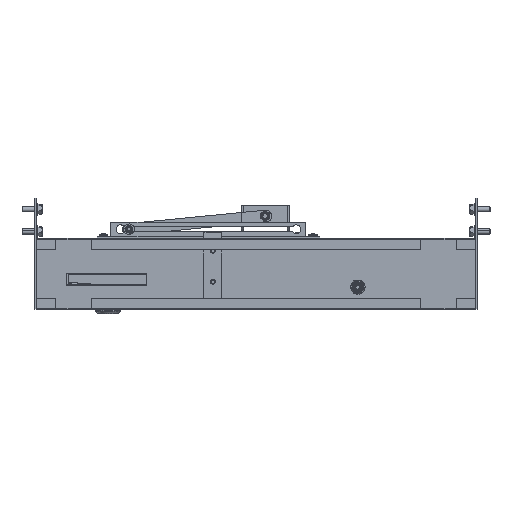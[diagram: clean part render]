
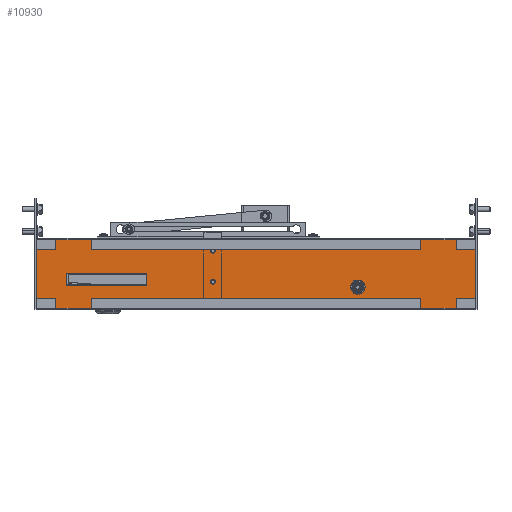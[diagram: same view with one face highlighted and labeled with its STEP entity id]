
A CAD part, front view. The second image highlights one B-rep face of the part: STEP entity #10930.
In plain terms, the highlighted planar face has unit normal (0, -1, 0).
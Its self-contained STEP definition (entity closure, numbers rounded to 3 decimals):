
#9102 = VERTEX_POINT('',#9103);
#9103 = CARTESIAN_POINT('',(-48.5,-1.5,-6.9));
#9121 = VERTEX_POINT('',#9122);
#9122 = CARTESIAN_POINT('',(-48.5,-1.5,-11.1));
#9128 = EDGE_CURVE('',#9102,#9121,#9129,.T.);
#9129 = CIRCLE('',#9130,2.1);
#9130 = AXIS2_PLACEMENT_3D('',#9131,#9132,#9133);
#9131 = CARTESIAN_POINT('',(-48.5,-1.5,-9.));
#9132 = DIRECTION('',(0.,-1.,0.));
#9133 = DIRECTION('',(0.,0.,-1.));
#9144 = VERTEX_POINT('',#9145);
#9145 = CARTESIAN_POINT('',(-48.5,-1.5,28.1));
#9163 = VERTEX_POINT('',#9164);
#9164 = CARTESIAN_POINT('',(-48.5,-1.5,23.9));
#9170 = EDGE_CURVE('',#9144,#9163,#9171,.T.);
#9171 = CIRCLE('',#9172,2.1);
#9172 = AXIS2_PLACEMENT_3D('',#9173,#9174,#9175);
#9173 = CARTESIAN_POINT('',(-48.5,-1.5,26.));
#9174 = DIRECTION('',(0.,-1.,0.));
#9175 = DIRECTION('',(0.,0.,-1.));
#9186 = VERTEX_POINT('',#9187);
#9187 = CARTESIAN_POINT('',(-124.,-1.5,-13.6));
#9195 = EDGE_CURVE('',#9186,#9196,#9198,.T.);
#9196 = VERTEX_POINT('',#9197);
#9197 = CARTESIAN_POINT('',(-123.5,-1.5,-13.6));
#9198 = LINE('',#9199,#9200);
#9199 = CARTESIAN_POINT('',(0.,-1.5,-13.6));
#9200 = VECTOR('',#9201,1.);
#9201 = DIRECTION('',(1.,0.,0.));
#10492 = VERTEX_POINT('',#10493);
#10493 = CARTESIAN_POINT('',(246.4,-1.5,-38.5));
#10499 = EDGE_CURVE('',#10500,#10492,#10502,.T.);
#10500 = VERTEX_POINT('',#10501);
#10501 = CARTESIAN_POINT('',(-246.4,-1.5,-38.5));
#10502 = LINE('',#10503,#10504);
#10503 = CARTESIAN_POINT('',(0.,-1.5,-38.5));
#10504 = VECTOR('',#10505,1.);
#10505 = DIRECTION('',(1.,0.,0.));
#10748 = VERTEX_POINT('',#10749);
#10749 = CARTESIAN_POINT('',(-246.4,-1.5,38.5));
#10755 = EDGE_CURVE('',#10756,#10748,#10758,.T.);
#10756 = VERTEX_POINT('',#10757);
#10757 = CARTESIAN_POINT('',(246.4,-1.5,38.5));
#10758 = LINE('',#10759,#10760);
#10759 = CARTESIAN_POINT('',(0.,-1.5,38.5));
#10760 = VECTOR('',#10761,1.);
#10761 = DIRECTION('',(-1.,0.,0.));
#10847 = EDGE_CURVE('',#10848,#10850,#10852,.T.);
#10848 = VERTEX_POINT('',#10849);
#10849 = CARTESIAN_POINT('',(-246.4,-1.5,-37.9));
#10850 = VERTEX_POINT('',#10851);
#10851 = CARTESIAN_POINT('',(-247.,-1.5,-37.9));
#10852 = LINE('',#10853,#10854);
#10853 = CARTESIAN_POINT('',(0.,-1.5,-37.9));
#10854 = VECTOR('',#10855,1.);
#10855 = DIRECTION('',(-1.,-0.,0.));
#10930 = ADVANCED_FACE('',(#10931,#10941,#10951,#11001,#11058),#11129,
  .T.);
#10931 = FACE_BOUND('',#10932,.T.);
#10932 = EDGE_LOOP('',(#10933,#10934));
#10933 = ORIENTED_EDGE('',*,*,#9128,.F.);
#10934 = ORIENTED_EDGE('',*,*,#10935,.F.);
#10935 = EDGE_CURVE('',#9121,#9102,#10936,.T.);
#10936 = CIRCLE('',#10937,2.1);
#10937 = AXIS2_PLACEMENT_3D('',#10938,#10939,#10940);
#10938 = CARTESIAN_POINT('',(-48.5,-1.5,-9.));
#10939 = DIRECTION('',(0.,-1.,0.));
#10940 = DIRECTION('',(0.,0.,-1.));
#10941 = FACE_BOUND('',#10942,.T.);
#10942 = EDGE_LOOP('',(#10943,#10944));
#10943 = ORIENTED_EDGE('',*,*,#9170,.F.);
#10944 = ORIENTED_EDGE('',*,*,#10945,.F.);
#10945 = EDGE_CURVE('',#9163,#9144,#10946,.T.);
#10946 = CIRCLE('',#10947,2.1);
#10947 = AXIS2_PLACEMENT_3D('',#10948,#10949,#10950);
#10948 = CARTESIAN_POINT('',(-48.5,-1.5,26.));
#10949 = DIRECTION('',(0.,-1.,0.));
#10950 = DIRECTION('',(0.,0.,-1.));
#10951 = FACE_BOUND('',#10952,.T.);
#10952 = EDGE_LOOP('',(#10953,#10963,#10971,#10979,#10987,#10995));
#10953 = ORIENTED_EDGE('',*,*,#10954,.F.);
#10954 = EDGE_CURVE('',#10955,#10957,#10959,.T.);
#10955 = VERTEX_POINT('',#10956);
#10956 = CARTESIAN_POINT('',(117.82,-1.5,-9.25));
#10957 = VERTEX_POINT('',#10958);
#10958 = CARTESIAN_POINT('',(111.18,-1.5,-9.25));
#10959 = LINE('',#10960,#10961);
#10960 = CARTESIAN_POINT('',(0.,-1.5,-9.25));
#10961 = VECTOR('',#10962,1.);
#10962 = DIRECTION('',(-1.,0.,0.));
#10963 = ORIENTED_EDGE('',*,*,#10964,.F.);
#10964 = EDGE_CURVE('',#10965,#10955,#10967,.T.);
#10965 = VERTEX_POINT('',#10966);
#10966 = CARTESIAN_POINT('',(121.14,-1.5,-15.));
#10967 = LINE('',#10968,#10969);
#10968 = CARTESIAN_POINT('',(84.359,-1.5,48.705));
#10969 = VECTOR('',#10970,1.);
#10970 = DIRECTION('',(-0.5,0.,0.866));
#10971 = ORIENTED_EDGE('',*,*,#10972,.F.);
#10972 = EDGE_CURVE('',#10973,#10965,#10975,.T.);
#10973 = VERTEX_POINT('',#10974);
#10974 = CARTESIAN_POINT('',(117.82,-1.5,-20.75));
#10975 = LINE('',#10976,#10977);
#10976 = CARTESIAN_POINT('',(97.35,-1.5,-56.205));
#10977 = VECTOR('',#10978,1.);
#10978 = DIRECTION('',(0.5,0.,0.866));
#10979 = ORIENTED_EDGE('',*,*,#10980,.F.);
#10980 = EDGE_CURVE('',#10981,#10973,#10983,.T.);
#10981 = VERTEX_POINT('',#10982);
#10982 = CARTESIAN_POINT('',(111.18,-1.5,-20.75));
#10983 = LINE('',#10984,#10985);
#10984 = CARTESIAN_POINT('',(0.,-1.5,-20.75));
#10985 = VECTOR('',#10986,1.);
#10986 = DIRECTION('',(1.,0.,0.));
#10987 = ORIENTED_EDGE('',*,*,#10988,.F.);
#10988 = EDGE_CURVE('',#10989,#10981,#10991,.T.);
#10989 = VERTEX_POINT('',#10990);
#10990 = CARTESIAN_POINT('',(107.86,-1.5,-15.));
#10991 = LINE('',#10992,#10993);
#10992 = CARTESIAN_POINT('',(74.4,-1.5,42.955));
#10993 = VECTOR('',#10994,1.);
#10994 = DIRECTION('',(0.5,0.,-0.866));
#10995 = ORIENTED_EDGE('',*,*,#10996,.F.);
#10996 = EDGE_CURVE('',#10957,#10989,#10997,.T.);
#10997 = LINE('',#10998,#10999);
#10998 = CARTESIAN_POINT('',(87.391,-1.5,-50.455));
#10999 = VECTOR('',#11000,1.);
#11000 = DIRECTION('',(-0.5,0.,-0.866));
#11001 = FACE_BOUND('',#11002,.T.);
#11002 = EDGE_LOOP('',(#11003,#11013,#11021,#11027,#11028,#11036,#11044,
    #11052));
#11003 = ORIENTED_EDGE('',*,*,#11004,.F.);
#11004 = EDGE_CURVE('',#11005,#11007,#11009,.T.);
#11005 = VERTEX_POINT('',#11006);
#11006 = CARTESIAN_POINT('',(-213.5,-1.5,0.4));
#11007 = VERTEX_POINT('',#11008);
#11008 = CARTESIAN_POINT('',(-213.5,-1.5,-13.6));
#11009 = LINE('',#11010,#11011);
#11010 = CARTESIAN_POINT('',(-213.5,-1.5,0.));
#11011 = VECTOR('',#11012,1.);
#11012 = DIRECTION('',(0.,0.,-1.));
#11013 = ORIENTED_EDGE('',*,*,#11014,.F.);
#11014 = EDGE_CURVE('',#11015,#11005,#11017,.T.);
#11015 = VERTEX_POINT('',#11016);
#11016 = CARTESIAN_POINT('',(-123.5,-1.5,0.4));
#11017 = LINE('',#11018,#11019);
#11018 = CARTESIAN_POINT('',(0.,-1.5,0.4));
#11019 = VECTOR('',#11020,1.);
#11020 = DIRECTION('',(-1.,0.,0.));
#11021 = ORIENTED_EDGE('',*,*,#11022,.F.);
#11022 = EDGE_CURVE('',#9196,#11015,#11023,.T.);
#11023 = LINE('',#11024,#11025);
#11024 = CARTESIAN_POINT('',(-123.5,-1.5,0.));
#11025 = VECTOR('',#11026,1.);
#11026 = DIRECTION('',(0.,0.,1.));
#11027 = ORIENTED_EDGE('',*,*,#9195,.F.);
#11028 = ORIENTED_EDGE('',*,*,#11029,.T.);
#11029 = EDGE_CURVE('',#9186,#11030,#11032,.T.);
#11030 = VERTEX_POINT('',#11031);
#11031 = CARTESIAN_POINT('',(-124.,-1.5,-13.));
#11032 = LINE('',#11033,#11034);
#11033 = CARTESIAN_POINT('',(-124.,-1.5,-13.6));
#11034 = VECTOR('',#11035,1.);
#11035 = DIRECTION('',(-0.,-0.,1.));
#11036 = ORIENTED_EDGE('',*,*,#11037,.T.);
#11037 = EDGE_CURVE('',#11030,#11038,#11040,.T.);
#11038 = VERTEX_POINT('',#11039);
#11039 = CARTESIAN_POINT('',(-213.,-1.5,-13.));
#11040 = LINE('',#11041,#11042);
#11041 = CARTESIAN_POINT('',(0.,-1.5,-13.));
#11042 = VECTOR('',#11043,1.);
#11043 = DIRECTION('',(-1.,-0.,0.));
#11044 = ORIENTED_EDGE('',*,*,#11045,.F.);
#11045 = EDGE_CURVE('',#11046,#11038,#11048,.T.);
#11046 = VERTEX_POINT('',#11047);
#11047 = CARTESIAN_POINT('',(-213.,-1.5,-13.6));
#11048 = LINE('',#11049,#11050);
#11049 = CARTESIAN_POINT('',(-213.,-1.5,0.));
#11050 = VECTOR('',#11051,1.);
#11051 = DIRECTION('',(-0.,0.,1.));
#11052 = ORIENTED_EDGE('',*,*,#11053,.F.);
#11053 = EDGE_CURVE('',#11007,#11046,#11054,.T.);
#11054 = LINE('',#11055,#11056);
#11055 = CARTESIAN_POINT('',(0.,-1.5,-13.6));
#11056 = VECTOR('',#11057,1.);
#11057 = DIRECTION('',(1.,0.,0.));
#11058 = FACE_BOUND('',#11059,.T.);
#11059 = EDGE_LOOP('',(#11060,#11070,#11076,#11077,#11085,#11093,#11099,
    #11100,#11106,#11107,#11115,#11123));
#11060 = ORIENTED_EDGE('',*,*,#11061,.F.);
#11061 = EDGE_CURVE('',#11062,#11064,#11066,.T.);
#11062 = VERTEX_POINT('',#11063);
#11063 = CARTESIAN_POINT('',(246.4,-1.5,37.9));
#11064 = VERTEX_POINT('',#11065);
#11065 = CARTESIAN_POINT('',(247.,-1.5,37.9));
#11066 = LINE('',#11067,#11068);
#11067 = CARTESIAN_POINT('',(0.,-1.5,37.9));
#11068 = VECTOR('',#11069,1.);
#11069 = DIRECTION('',(1.,-0.,0.));
#11070 = ORIENTED_EDGE('',*,*,#11071,.T.);
#11071 = EDGE_CURVE('',#11062,#10756,#11072,.T.);
#11072 = LINE('',#11073,#11074);
#11073 = CARTESIAN_POINT('',(246.4,-1.5,37.9));
#11074 = VECTOR('',#11075,1.);
#11075 = DIRECTION('',(-0.,-0.,1.));
#11076 = ORIENTED_EDGE('',*,*,#10755,.T.);
#11077 = ORIENTED_EDGE('',*,*,#11078,.F.);
#11078 = EDGE_CURVE('',#11079,#10748,#11081,.T.);
#11079 = VERTEX_POINT('',#11080);
#11080 = CARTESIAN_POINT('',(-246.4,-1.5,37.9));
#11081 = LINE('',#11082,#11083);
#11082 = CARTESIAN_POINT('',(-246.4,-1.5,0.));
#11083 = VECTOR('',#11084,1.);
#11084 = DIRECTION('',(-0.,0.,1.));
#11085 = ORIENTED_EDGE('',*,*,#11086,.T.);
#11086 = EDGE_CURVE('',#11079,#11087,#11089,.T.);
#11087 = VERTEX_POINT('',#11088);
#11088 = CARTESIAN_POINT('',(-247.,-1.5,37.9));
#11089 = LINE('',#11090,#11091);
#11090 = CARTESIAN_POINT('',(-246.4,-1.5,37.9));
#11091 = VECTOR('',#11092,1.);
#11092 = DIRECTION('',(-1.,-0.,0.));
#11093 = ORIENTED_EDGE('',*,*,#11094,.F.);
#11094 = EDGE_CURVE('',#10850,#11087,#11095,.T.);
#11095 = LINE('',#11096,#11097);
#11096 = CARTESIAN_POINT('',(-247.,-1.5,0.));
#11097 = VECTOR('',#11098,1.);
#11098 = DIRECTION('',(0.,0.,1.));
#11099 = ORIENTED_EDGE('',*,*,#10847,.F.);
#11100 = ORIENTED_EDGE('',*,*,#11101,.T.);
#11101 = EDGE_CURVE('',#10848,#10500,#11102,.T.);
#11102 = LINE('',#11103,#11104);
#11103 = CARTESIAN_POINT('',(-246.4,-1.5,-37.9));
#11104 = VECTOR('',#11105,1.);
#11105 = DIRECTION('',(-0.,-0.,-1.));
#11106 = ORIENTED_EDGE('',*,*,#10499,.T.);
#11107 = ORIENTED_EDGE('',*,*,#11108,.F.);
#11108 = EDGE_CURVE('',#11109,#10492,#11111,.T.);
#11109 = VERTEX_POINT('',#11110);
#11110 = CARTESIAN_POINT('',(246.4,-1.5,-37.9));
#11111 = LINE('',#11112,#11113);
#11112 = CARTESIAN_POINT('',(246.4,-1.5,0.));
#11113 = VECTOR('',#11114,1.);
#11114 = DIRECTION('',(0.,0.,-1.));
#11115 = ORIENTED_EDGE('',*,*,#11116,.T.);
#11116 = EDGE_CURVE('',#11109,#11117,#11119,.T.);
#11117 = VERTEX_POINT('',#11118);
#11118 = CARTESIAN_POINT('',(247.,-1.5,-37.9));
#11119 = LINE('',#11120,#11121);
#11120 = CARTESIAN_POINT('',(246.4,-1.5,-37.9));
#11121 = VECTOR('',#11122,1.);
#11122 = DIRECTION('',(1.,-0.,0.));
#11123 = ORIENTED_EDGE('',*,*,#11124,.T.);
#11124 = EDGE_CURVE('',#11117,#11064,#11125,.T.);
#11125 = LINE('',#11126,#11127);
#11126 = CARTESIAN_POINT('',(247.,-1.5,0.));
#11127 = VECTOR('',#11128,1.);
#11128 = DIRECTION('',(0.,-0.,1.));
#11129 = PLANE('',#11130);
#11130 = AXIS2_PLACEMENT_3D('',#11131,#11132,#11133);
#11131 = CARTESIAN_POINT('',(0.,-1.5,0.));
#11132 = DIRECTION('',(0.,-1.,0.));
#11133 = DIRECTION('',(0.,-0.,-1.));
